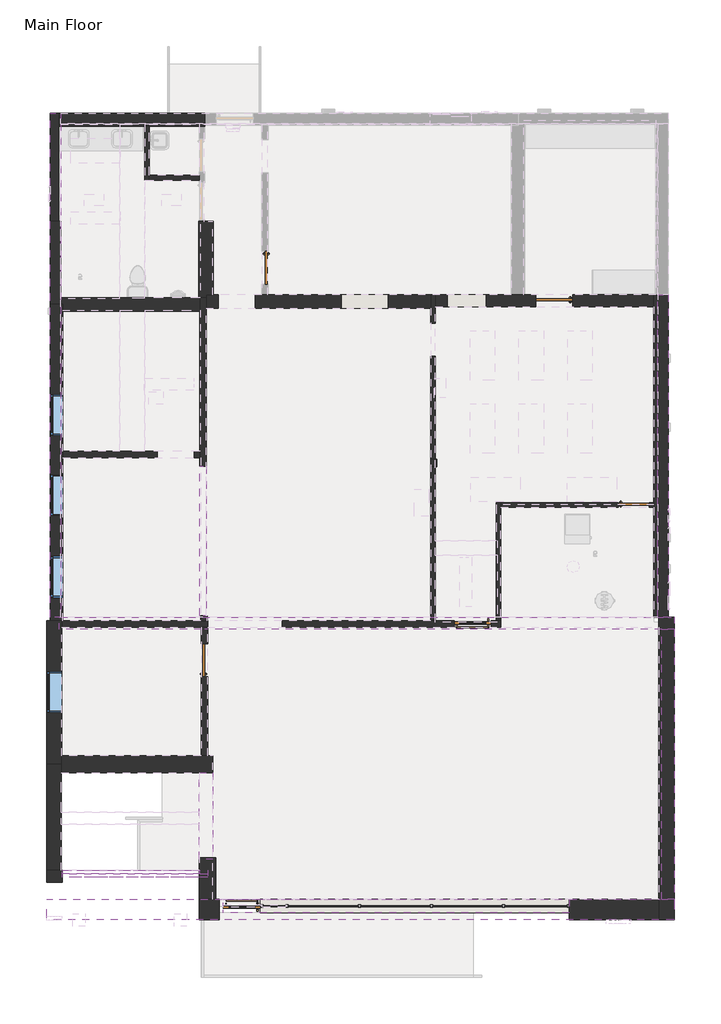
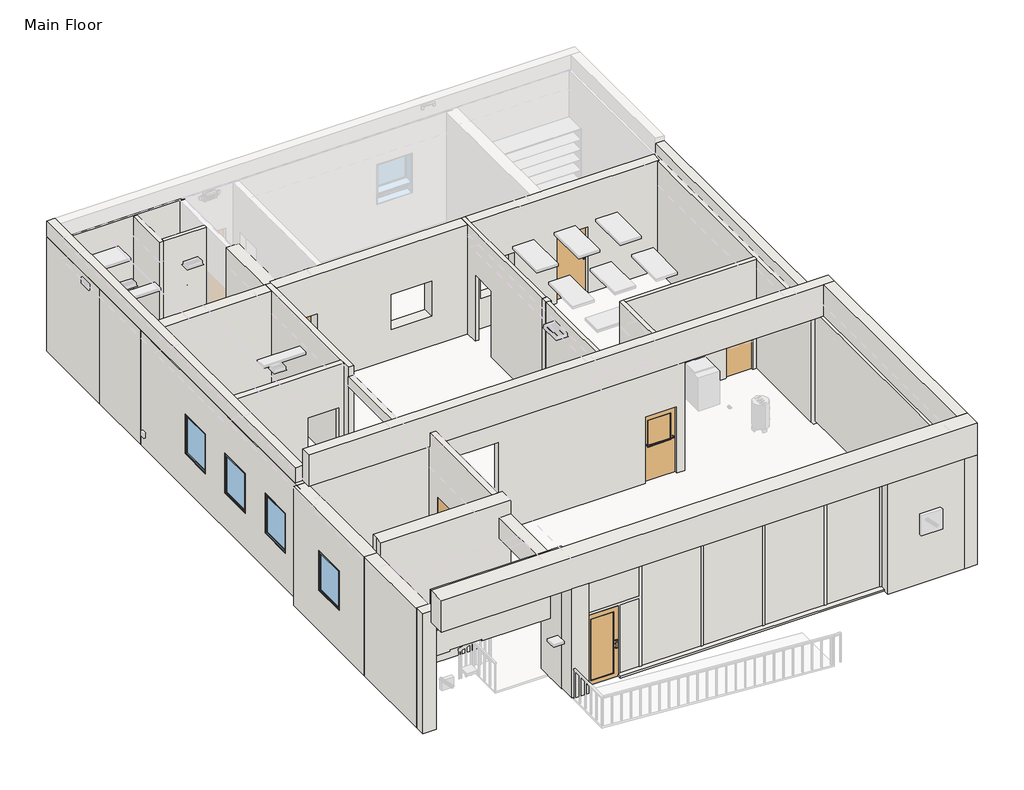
# One storey, part 1 of 4: 44 walls, 12 doors, 4 windows.
"""IFC4 building model written with IfcOpenShell, lengths in millimetres."""

from ifc_helpers import new_model, si_unit, frame, origin, origin_with_axes, place, context, project, spatial, polyline, outline, extrude, faceted_brep, transform, mapped, element, save
from components import door_a150a632, door_277e8865, door_f4e0ca5e, door_8cb6f799, door_086945a9, door_2_6_e0459014, door_2_8_83d02ac8, door_4acad3c3, door_4347636e, door_b55f2143, default_1_879c5c3a, default_1_cb71ed48

model = new_model("IFC4")

# Units and contexts
model_context = context("Model", 3, world=origin())
ifc_project = project(units=[si_unit("LENGTHUNIT", "METRE", prefix="MILLI")], contexts=[model_context])

# Site, building, storey
site = spatial("IfcSite", under=ifc_project)
building = spatial("IfcBuilding", under=site)
storey = spatial("IfcBuildingStorey", under=building, Name="Main Floor", Elevation=0.0)

# Doors
placement = place(None, origin())
door_shape = door_a150a632(model_context)
element("IfcDoor", 1, ObjectType="Planitar - Swap_Flush Panel : Planitar - Swap_Flush Panel", at=placement, inside=storey, context=model_context, shape_type="MappedRepresentation", body=[
    mapped(door_shape, transform((14998.7, 1934.9357, 0.0), x_axis=(1.0, 0.0, 0.0), y_axis=(0.0, 1.0, 0.0), z_axis=(0.0, 0.0, 1.0))),
])
door_2_shape = door_277e8865(model_context)
element("IfcDoor", 2, ObjectType="Planitar - Swap_Full Glass_Panel : Planitar - Swap_Full Glass_Panel", at=placement, inside=storey, context=model_context, shape_type="MappedRepresentation", body=[
    mapped(door_2_shape, transform((5333.6346089, -8007.35, 0.0), x_axis=(-1.0, 0.0, 0.0), y_axis=(0.0, -1.0, 0.0), z_axis=(0.0, 0.0, 1.0))),
])
door_3_shape = door_f4e0ca5e(model_context)
element("IfcDoor", 3, ObjectType="Planitar - Swap_Flush Panel : Planitar - Swap_Flush Panel", at=placement, inside=storey, context=model_context, shape_type="MappedRepresentation", body=[
    mapped(door_3_shape, transform((5930.9, 7766.05, 0.0), x_axis=(0.0, -1.0, 0.0), y_axis=(1.0, 0.0, 0.0), z_axis=(0.0, 0.0, 1.0))),
])
element("IfcDoor", 4, ObjectType="Planitar - Swap_Flush Panel : Planitar - Swap_Flush Panel", at=placement, inside=storey, context=model_context, shape_type="MappedRepresentation", body=[
    mapped(door_3_shape, transform((4387.85, -1913.128, 0.0), x_axis=(0.0, 1.0, 0.0), y_axis=(-1.0, 0.0, 0.0), z_axis=(0.0, 0.0, 1.0))),
])
door_4_shape = door_8cb6f799(model_context)
element("IfcDoor", 5, ObjectType="Planitar - Swap_Flush Panel : Planitar - Swap_Flush Panel", at=placement, inside=storey, context=model_context, shape_type="MappedRepresentation", body=[
    mapped(door_4_shape, transform((13036.55, 6972.3, 0.0), x_axis=(-1.0, 0.0, 0.0), y_axis=(0.0, -1.0, 0.0), z_axis=(0.0, 0.0, 1.0))),
])
door_5_shape = door_086945a9(model_context)
element("IfcDoor", 6, ObjectType="Planitar - Swap_Half Glass_Panel : Planitar - Swap_Half Glass_Panel", at=placement, inside=storey, context=model_context, shape_type="MappedRepresentation", body=[
    mapped(door_5_shape, transform((11025.4143, -998.728, 0.0), x_axis=(-1.0, 0.0, 0.0), y_axis=(0.0, -1.0, 0.0), z_axis=(0.0, 0.0, 1.0))),
])
door_2_6_shape = door_2_6_e0459014(model_context)
element("IfcDoor", 7, ObjectType="Planitar - Single Door : 2'6", at=placement, inside=storey, context=model_context, shape_type="MappedRepresentation", body=[
    mapped(door_2_6_shape, transform((14998.7, 1909.5357, 0.0), x_axis=(1.0, 0.0, 0.0), y_axis=(0.0, 1.0, 0.0), z_axis=(0.0, 0.0, 1.0))),
])
door_2_8_shape = door_2_8_83d02ac8(model_context)
element("IfcDoor", 8, ObjectType="Planitar - Single Door : 2'8", at=placement, inside=storey, context=model_context, shape_type="MappedRepresentation", body=[
    mapped(door_2_8_shape, transform((5905.5, 7766.05, 0.0), x_axis=(0.0, -1.0, 0.0), y_axis=(1.0, 0.0, 0.0), z_axis=(0.0, 0.0, 1.0))),
])
element("IfcDoor", 9, ObjectType="Planitar - Single Door : 2'8", at=placement, inside=storey, context=model_context, shape_type="MappedRepresentation", body=[
    mapped(door_2_8_shape, transform((4413.25, -1913.128, 0.0), x_axis=(0.0, 1.0, 0.0), y_axis=(-1.0, 0.0, 0.0), z_axis=(0.0, 0.0, 1.0))),
])
door_6_shape = door_4acad3c3(model_context)
element("IfcDoor", 10, ObjectType="Planitar - Single Door : 3'-0 x 6'-8\"", at=placement, inside=storey, context=model_context, shape_type="MappedRepresentation", body=[
    mapped(door_6_shape, transform((5333.6346089, -7981.95, 0.0), x_axis=(-1.0, 0.0, 0.0), y_axis=(0.0, -1.0, 0.0), z_axis=(0.0, 0.0, 1.0))),
])
door_7_shape = door_4347636e(model_context)
element("IfcDoor", 11, ObjectType="Planitar - Single Door : 3'-0 x 6'-8\"", at=placement, inside=storey, context=model_context, shape_type="MappedRepresentation", body=[
    mapped(door_7_shape, transform((13036.55, 6946.9, 0.0), x_axis=(-1.0, 0.0, 0.0), y_axis=(0.0, -1.0, 0.0), z_axis=(0.0, 0.0, 1.0))),
])
door_8_shape = door_b55f2143(model_context)
element("IfcDoor", 12, ObjectType="Planitar - Single Door : 3'-0 x 6'-8\"", at=placement, inside=storey, context=model_context, shape_type="MappedRepresentation", body=[
    mapped(door_8_shape, transform((11025.4143, -1024.128, 0.0), x_axis=(-1.0, 0.0, 0.0), y_axis=(0.0, -1.0, 0.0), z_axis=(0.0, 0.0, 1.0))),
])

# Walls
element("IfcWall", 13, ObjectType="Planitar - Generic 1' - 2\"", at=placement, inside=storey, context=model_context, shape_type="Brep", body=[
    faceted_brep([(15494.0, 7091.172, -254.0), (15494.0, -852.678, -254.0), (15494.0, -852.678, 3327.4), (15494.0, 7091.172, 3327.4), (15849.6, 7091.172, -254.0), (15849.6, 7091.172, 152.4), (15849.6, 7091.172, 3327.4), (15849.6, -852.678, 3327.4), (15849.6, -852.678, -254.0), (15614.65, -852.678, 3327.4)], [[[0, 1, 2, 3]], [[4, 5, 6, 7, 8]], [[1, 0, 4, 8]], [[3, 2, 9, 7, 6]], [[0, 3, 6, 5, 4]], [[1, 8, 7, 9, 2]]]),
])
element("IfcWall", 14, ObjectType="Planitar - Generic 1' - 3\"", at=placement, inside=storey, context=model_context, shape_type="Brep", body=[
    faceted_brep([(15614.65, -852.678, 0.0), (15614.65, -7810.5, 0.0), (15614.65, -8318.5, 0.0), (15614.65, -8318.5, 3352.8), (15614.65, -7810.5, 3352.8), (15614.65, -852.678, 3352.8), (15614.65, -852.678, 3327.4), (15995.65, -852.678, 0.0), (15995.65, -852.678, 3352.8), (15995.65, -1157.478, 3352.8), (15995.65, -7810.5, 3352.8), (15995.65, -8318.5, 3352.8), (15995.65, -8318.5, 0.0)], [[[0, 1, 2, 3, 4, 5, 6]], [[7, 8, 9, 10, 11, 12]], [[2, 1, 0, 7, 12]], [[5, 4, 3, 11, 10, 9, 8]], [[0, 6, 5, 8, 7]], [[3, 2, 12, 11]]]),
])
element("IfcWall", 15, ObjectType="Planitar - Generic 1' - 8\"", at=placement, inside=storey, context=model_context, shape_type="Brep", body=[
    faceted_brep([(4775.2, -7810.5, 3352.8), (4775.2, -7810.5, 0.0), (4692.65, -7810.5, 0.0), (4337.05, -7810.5, 0.0), (4337.05, -7810.5, 31.75), (4286.25, -7810.5, 31.75), (4286.25, -7810.5, 3352.8), (4775.2, -8318.5, 0.0), (4775.2, -8318.5, 3352.8), (4286.25, -8318.5, 3352.8), (4286.25, -8318.5, 31.75), (4337.05, -8318.5, 31.75), (4337.05, -8318.5, 0.0), (4775.2, -8147.05, 3352.8), (4775.2, -7816.85, 3352.8)], [[[0, 1, 2, 3, 4, 5, 6]], [[7, 8, 9, 10, 11, 12]], [[3, 2, 1, 7, 12]], [[0, 6, 9, 8, 13, 14]], [[0, 14, 13, 8, 7, 1]], [[4, 3, 12, 11]], [[10, 5, 4, 11]], [[5, 10, 9, 6]]]),
])
element("IfcWall", 16, ObjectType="Planitar - Generic 1' - 4\"", at=placement, inside=storey, context=model_context, shape_type="Brep", body=[
    faceted_brep([(4692.65, -7810.5, 3784.6), (4692.65, -7810.5, 0.0), (4692.65, -6794.5, 0.0), (4692.65, -6794.5, 3327.4), (4692.65, -7100.57, 3327.4), (4692.65, -7100.57, 3784.6), (4286.25, -7810.5, 0.0), (4286.25, -7810.5, 31.75), (4286.25, -7810.5, 3352.8), (4286.25, -7810.5, 3784.6), (4286.25, -7265.67, 3784.6), (4286.25, -7100.57, 3784.6), (4286.25, -7100.57, 3352.8), (4286.25, -7100.57, 3327.4), (4286.25, -6794.5, 3327.4), (4286.25, -6794.5, 0.0), (4337.05, -7810.5, 0.0)], [[[0, 1, 2, 3, 4, 5]], [[6, 7, 8, 9, 10, 11, 12, 13, 14, 15]], [[0, 9, 8, 7, 6, 16, 1]], [[2, 1, 16, 6, 15]], [[3, 2, 15, 14]], [[4, 3, 14, 13]], [[0, 5, 11, 10, 9]], [[5, 4, 13, 12, 11]]]),
])
element("IfcWall", 17, ObjectType="Planitar - Generic 1' - 0\"", at=placement, inside=storey, context=model_context, shape_type="Brep", body=[
    faceted_brep([(901.7, -7094.22, 3352.8), (901.7, -7094.22, -304.8), (876.0952, -7094.22, -304.8), (520.4952, -7094.22, -304.8), (520.4952, -7094.22, 3327.4), (520.4952, -7094.22, 3352.8), (901.7, -7399.02, -304.8), (901.7, -7399.02, 3352.8), (520.4952, -7399.02, 3352.8), (520.4952, -7399.02, -304.8), (901.7, -7265.67, 3352.8), (901.7, -7100.57, 3352.8)], [[[0, 1, 2, 3, 4, 5]], [[6, 7, 8, 9]], [[3, 2, 1, 6, 9]], [[0, 5, 8, 7, 10, 11]], [[0, 11, 10, 7, 6, 1]], [[3, 9, 8, 5, 4]]]),
])
element("IfcWall", 18, ObjectType="Planitar - Generic 1' - 2\"", at=placement, inside=storey, context=model_context, shape_type="Brep", body=[
    faceted_brep([(876.0952, -7094.22, 3327.4), (876.0952, -7094.22, -304.8), (876.0952, -4686.3, -304.8), (876.0952, -4476.75, -304.8), (876.0952, -4476.75, 3327.4), (520.4952, -7094.22, -304.8), (520.4952, -7094.22, 3327.4), (520.4952, -4476.75, 3327.4), (520.4952, -4476.75, -304.8)], [[[0, 1, 2, 3, 4]], [[5, 6, 7, 8]], [[3, 2, 1, 5, 8]], [[0, 4, 7, 6]], [[3, 8, 7, 4]], [[0, 6, 5, 1]]]),
])
element("IfcWall", 19, ObjectType="Planitar - Generic 1' - 2 1/2\"", at=placement, inside=storey, context=model_context, shape_type="Brep", body=[
    faceted_brep([(888.7952, -4476.75, 3327.4), (888.7952, -4476.75, -304.8), (888.7952, -4267.2, -304.8), (888.7952, -941.578, -304.8), (888.7952, -941.578, 3327.4), (888.7952, -3207.639, 914.4), (888.7952, -3207.639, 2133.6), (888.7952, -2191.639, 2133.6), (888.7952, -2191.639, 914.4), (520.4952, -4476.75, -304.8), (520.4952, -4476.75, 3327.4), (520.4952, -941.578, 3327.4), (520.4952, -941.578, -304.8), (520.4952, -3207.639, 914.4), (520.4952, -2191.639, 914.4), (520.4952, -2191.639, 2133.6), (520.4952, -3207.639, 2133.6), (876.0952, -4476.75, -304.8), (876.0952, -4476.75, 3327.4)], [[[0, 1, 2, 3, 4], [5, 6, 7, 8]], [[9, 10, 11, 12], [13, 14, 15, 16]], [[6, 5, 13, 16]], [[7, 6, 16, 15]], [[8, 7, 15, 14]], [[5, 8, 14, 13]], [[3, 2, 1, 17, 9, 12]], [[4, 3, 12, 11]], [[0, 4, 11, 10, 18]], [[0, 18, 10, 9, 17, 1]]]),
])
element("IfcWall", 20, ObjectType="Planitar - Generic 1' - 0\"", at=placement, inside=storey, context=model_context, shape_type="Brep", body=[
    faceted_brep([(914.1952, -1024.128, -152.4), (914.1952, 6858.0, -152.4), (914.1952, 6858.0, 0.0), (914.1952, 6858.0, 3327.4), (914.1952, -941.578, 3327.4), (914.1952, -941.578, 0.0), (914.1952, -1024.128, 0.0), (914.1952, 3625.85, 914.4), (914.1952, 3625.85, 2133.6), (914.1952, 4641.85, 2133.6), (914.1952, 4641.85, 914.4), (914.1952, 1644.65, 914.4), (914.1952, 1644.65, 2133.6), (914.1952, 2660.65, 2133.6), (914.1952, 2660.65, 914.4), (914.1952, -370.078, 914.4), (914.1952, -370.078, 2133.6), (914.1952, 645.922, 2133.6), (914.1952, 645.922, 914.4), (609.3952, -1024.128, -152.4), (609.3952, -1024.128, 0.0), (609.3952, -941.578, 0.0), (609.3952, -941.578, 3327.4), (609.3952, 6858.0, 3327.4), (609.3952, 6858.0, -152.4), (609.3952, 3625.85, 914.4), (609.3952, 4641.85, 914.4), (609.3952, 4641.85, 2133.6), (609.3952, 3625.85, 2133.6), (609.3952, 1644.65, 914.4), (609.3952, 2660.65, 914.4), (609.3952, 2660.65, 2133.6), (609.3952, 1644.65, 2133.6), (609.3952, -370.078, 914.4), (609.3952, 645.922, 914.4), (609.3952, 645.922, 2133.6), (609.3952, -370.078, 2133.6), (863.3952, 6858.0, -152.4), (863.3952, 6858.0, 3327.4), (888.7952, -1024.128, 0.0), (634.7952, -1024.128, 0.0)], [[[0, 1, 2, 3, 4, 5, 6], [7, 8, 9, 10], [11, 12, 13, 14], [15, 16, 17, 18]], [[19, 20, 21, 22, 23, 24], [25, 26, 27, 28], [29, 30, 31, 32], [33, 34, 35, 36]], [[8, 7, 25, 28]], [[9, 8, 28, 27]], [[10, 9, 27, 26]], [[7, 10, 26, 25]], [[12, 11, 29, 32]], [[13, 12, 32, 31]], [[14, 13, 31, 30]], [[11, 14, 30, 29]], [[16, 15, 33, 36]], [[17, 16, 36, 35]], [[18, 17, 35, 34]], [[15, 18, 34, 33]], [[1, 0, 19, 24, 37]], [[4, 3, 38, 23, 22]], [[1, 37, 24, 23, 38, 3, 2]], [[0, 6, 39, 40, 20, 19]], [[5, 21, 20, 40, 39, 6]], [[4, 22, 21, 5]]]),
])
element("IfcWall", 21, ObjectType="Planitar - Generic 10\"", at=placement, inside=storey, context=model_context, shape_type="Brep", body=[
    faceted_brep([(863.3952, 6858.0, 3327.4), (863.3952, 6858.0, 0.0), (863.3952, 6858.0, -152.4), (863.3952, 8915.4, -152.4), (863.3952, 8915.4, 3327.4), (609.3952, 6858.0, -152.4), (609.3952, 6858.0, 3327.4), (609.3952, 8915.4, 3327.4), (609.3952, 8915.4, -152.4), (812.5952, 8915.4, -152.4), (812.5952, 8915.4, 3327.4)], [[[0, 1, 2, 3, 4]], [[5, 6, 7, 8]], [[3, 2, 5, 8, 9]], [[4, 3, 9, 8, 7, 10]], [[0, 4, 10, 7, 6]], [[0, 6, 5, 2, 1]]]),
])
element("IfcWall", 22, ObjectType="Planitar - Generic 1' - 1/2\"", at=placement, inside=storey, context=model_context, shape_type="Brep", body=[
    faceted_brep([(812.5952, 11252.2, -152.4), (4349.75, 11252.2, -152.4), (4349.75, 11252.2, 0.0), (4419.6, 11252.2, 0.0), (4419.6, 11252.2, 3340.1), (4349.75, 11252.2, 3340.1), (4349.75, 11252.2, 3352.8), (812.5952, 11252.2, 3352.8), (812.5952, 11569.7, -152.4), (812.5952, 11569.7, 3327.4), (812.5952, 11569.7, 3352.8), (4349.75, 11569.7, 3352.8), (4349.75, 11569.7, 3340.1), (4419.6, 11569.7, 3340.1), (4419.6, 11569.7, 0.0), (4349.75, 11569.7, 0.0), (4349.75, 11569.7, -152.4), (4349.75, 11277.6, 3352.8), (4349.75, 11277.6, 0.0), (4419.6, 11277.6, 0.0), (4349.75, 11277.6, 3340.1), (4419.6, 11277.6, 3340.1)], [[[0, 1, 2, 3, 4, 5, 6, 7]], [[8, 9, 10, 11, 12, 13, 14, 15, 16]], [[1, 0, 8, 16]], [[7, 6, 17, 11, 10]], [[0, 7, 10, 9, 8]], [[2, 1, 16, 15, 18]], [[14, 19, 3, 2, 18, 15]], [[6, 5, 20, 12, 11, 17]], [[12, 20, 5, 4, 21, 13]], [[4, 3, 19, 14, 13, 21]]]),
])
element("IfcWall", 23, ObjectType="Planitar - Generic 6 1/2\"", at=placement, inside=storey, context=model_context, shape_type="Brep", body=[
    faceted_brep([(11717.5643, -1106.678, 3327.4), (609.3952, -1106.678, 3327.4), (609.3952, -1106.678, 0.0), (634.7952, -1106.678, 0.0), (888.7952, -1106.678, 0.0), (4330.7, -1106.678, 0.0), (4495.8, -1106.678, 0.0), (4495.8, -1106.678, 2743.2), (6324.6, -1106.678, 2743.2), (6324.6, -1106.678, 0.0), (10568.2143, -1106.678, 0.0), (10568.2143, -1106.678, 2032.0), (11482.6143, -1106.678, 2032.0), (11482.6143, -1106.678, 0.0), (11717.5643, -1106.678, 0.0), (609.3952, -941.578, 3327.4), (914.1952, -941.578, 3327.4), (4318.0, -941.578, 3327.4), (4483.1, -941.578, 3327.4), (11717.5643, -941.578, 3327.4), (11717.5643, -941.578, 0.0), (11603.2643, -941.578, 0.0), (11482.6143, -941.578, 0.0), (11482.6143, -941.578, 2032.0), (10568.2143, -941.578, 2032.0), (10568.2143, -941.578, 0.0), (10102.85, -941.578, 0.0), (9988.55, -941.578, 0.0), (6324.6, -941.578, 0.0), (6324.6, -941.578, 2743.2), (4495.8, -941.578, 2743.2), (4495.8, -941.578, 0.0), (4483.1, -941.578, 0.0), (4318.0, -941.578, 0.0), (914.1952, -941.578, 0.0), (609.3952, -941.578, 0.0), (609.3952, -1024.128, 0.0)], [[[0, 1, 2, 3, 4, 5, 6, 7, 8, 9, 10, 11, 12, 13, 14]], [[15, 16, 17, 18, 19, 20, 21, 22, 23, 24, 25, 26, 27, 28, 29, 30, 31, 32, 33, 34, 35]], [[31, 6, 5, 4, 3, 2, 36, 35, 34, 33, 32]], [[9, 28, 27, 26, 25, 10]], [[20, 14, 13, 22, 21]], [[1, 0, 19, 18, 17, 16, 15]], [[31, 30, 7, 6]], [[29, 28, 9, 8]], [[30, 29, 8, 7]], [[24, 11, 10, 25]], [[11, 24, 23, 12]], [[12, 23, 22, 13]], [[0, 14, 20, 19]], [[35, 36, 2, 1, 15]]]),
])
element("IfcWall", 24, ObjectType="Planitar - Generic 6 1/2\"", at=placement, inside=storey, context=model_context, shape_type="Brep", body=[
    faceted_brep([(4330.7, -4267.2, 3759.2), (4330.7, -1157.478, 3759.2), (4330.7, -1157.478, 3352.8), (4330.7, -1106.678, 3352.8), (4330.7, -1106.678, 0.0), (4330.7, -1506.728, 0.0), (4330.7, -1506.728, 2032.0), (4330.7, -2319.528, 2032.0), (4330.7, -2319.528, 0.0), (4330.7, -4267.2, 0.0), (4495.8, -1157.478, 3759.2), (4495.8, -4267.2, 3759.2), (4495.8, -4267.2, 0.0), (4495.8, -2319.528, 0.0), (4495.8, -2319.528, 2032.0), (4495.8, -1506.728, 2032.0), (4495.8, -1506.728, 0.0), (4495.8, -1106.678, 0.0), (4495.8, -1106.678, 2743.2), (4495.8, -1106.678, 3352.8), (4495.8, -1157.478, 3352.8)], [[[0, 1, 2, 3, 4, 5, 6, 7, 8, 9]], [[10, 11, 12, 13, 14, 15, 16, 17, 18, 19, 20]], [[12, 9, 8, 13]], [[4, 17, 16, 5]], [[1, 0, 11, 10]], [[15, 6, 5, 16]], [[6, 15, 14, 7]], [[7, 14, 13, 8]], [[20, 19, 3, 2]], [[17, 4, 3, 19, 18]], [[1, 10, 20, 2]], [[9, 12, 11, 0]]]),
])
element("IfcWall", 25, ObjectType="Planitar - Generic 6 1/2\"", at=placement, inside=storey, context=model_context, shape_type="SweptSolid", body=[
    extrude(outline(polyline([(2032.0, 4159.25), (0.0, 4159.25), (0.0, 4292.6), (3340.1, 4292.6), (3340.1, 914.1952), (0.0, 914.1952), (0.0, 3244.85), (2032.0, 3244.85), (2032.0, 4159.25)])), frame((0.0, 3073.4, 0.0), z_axis=(0.0, 1.0, 0.0), x_axis=(0.0, 0.0, 1.0)), (0.0, 0.0, 1.0), 165.1),
])
element("IfcWall", 26, ObjectType="Planitar - Generic 6 1/2\"", at=placement, inside=storey, context=model_context, shape_type="Brep", body=[
    faceted_brep([(4457.7, 2870.2, 0.0), (4457.7, 6762.75, 0.0), (4457.7, 7023.1, 0.0), (4457.7, 7023.1, 3340.1), (4457.7, 6762.75, 3340.1), (4457.7, 2870.2, 3340.1), (4457.7, 2870.2, 3048.0), (4457.7, 2870.2, 2743.2), (4292.6, 2870.2, 0.0), (4292.6, 2870.2, 2743.2), (4292.6, 2870.2, 3048.0), (4292.6, 2870.2, 3340.1), (4292.6, 3073.4, 3340.1), (4292.6, 3238.5, 3340.1), (4292.6, 6692.9, 3340.1), (4292.6, 7023.1, 3340.1), (4292.6, 7023.1, 0.0), (4292.6, 6692.9, 0.0), (4292.6, 3238.5, 0.0), (4292.6, 3073.4, 0.0)], [[[0, 1, 2, 3, 4, 5, 6, 7]], [[8, 9, 10, 11, 12, 13, 14, 15, 16, 17, 18, 19]], [[2, 1, 0, 8, 19, 18, 17, 16]], [[5, 4, 3, 15, 14, 13, 12, 11]], [[0, 7, 6, 5, 11, 10, 9, 8]], [[3, 2, 16, 15]]]),
])
element("IfcWall", 27, ObjectType="Planitar - Generic 4 1/2\"", at=placement, inside=storey, context=model_context, shape_type="SweptSolid", body=[
    extrude(outline(polyline([(10102.85, 2857.5), (10102.85, -941.578), (9988.55, -941.578), (9988.55, 2857.5), (10102.85, 2857.5)])), origin_with_axes(), (0.0, 0.0, 1.0), 3340.1),
])
element("IfcWall", 28, ObjectType="Planitar - Generic 4 1/2\"", at=placement, inside=storey, context=model_context, shape_type="Brep", body=[
    faceted_brep([(11717.5643, -941.578, 0.0), (11717.5643, 1852.3857, 0.0), (11717.5643, 1966.6857, 0.0), (11717.5643, 1966.6857, 3340.1), (11717.5643, 1852.3857, 3340.1), (11717.5643, -941.578, 3340.1), (11717.5643, -941.578, 3327.4), (11603.2643, -941.578, 0.0), (11603.2643, -941.578, 3340.1), (11603.2643, 1966.6857, 3340.1), (11603.2643, 1966.6857, 0.0)], [[[0, 1, 2, 3, 4, 5, 6]], [[7, 8, 9, 10]], [[2, 1, 0, 7, 10]], [[5, 4, 3, 9, 8]], [[0, 6, 5, 8, 7]], [[3, 2, 10, 9]]]),
])
element("IfcWall", 29, ObjectType="Planitar - Generic 4 1/2\"", at=placement, inside=storey, context=model_context, shape_type="SweptSolid", body=[
    extrude(outline(polyline([(3340.1, 15494.0), (3340.1, 11717.5643), (0.0, 11717.5643), (0.0, 14617.7), (2032.0, 14617.7), (2032.0, 15379.7), (0.0, 15379.7), (0.0, 15494.0), (3340.1, 15494.0)])), frame((0.0, 1852.3857, 0.0), z_axis=(0.0, 1.0, 0.0), x_axis=(0.0, 0.0, 1.0)), (0.0, 0.0, 1.0), 114.3),
])
element("IfcWall", 30, ObjectType="Planitar - Generic 4 1/2\"", at=placement, inside=storey, context=model_context, shape_type="Brep", body=[
    faceted_brep([(2933.7, 11252.2, 0.0), (2933.7, 9928.225, 0.0), (2933.7, 9928.225, 3340.1), (2933.7, 11252.2, 3340.1), (3048.0, 11252.2, 0.0), (3048.0, 11252.2, 3340.1), (3048.0, 10042.525, 3340.1), (3048.0, 9928.225, 3340.1), (3048.0, 9928.225, 0.0), (3048.0, 10042.525, 0.0)], [[[0, 1, 2, 3]], [[4, 5, 6, 7, 8, 9]], [[1, 0, 4, 9, 8]], [[3, 2, 7, 6, 5]], [[0, 3, 5, 4]], [[2, 1, 8, 7]]]),
])
element("IfcWall", 31, ObjectType="Planitar - Generic 4 1/2\"", at=placement, inside=storey, context=model_context, shape_type="SweptSolid", body=[
    extrude(outline(polyline([(4279.9, 9928.225), (3048.0, 9928.225), (3048.0, 10042.525), (4279.9, 10042.525), (4279.9, 9928.225)])), origin_with_axes(), (0.0, 0.0, 1.0), 3340.1),
])
element("IfcWall", 32, ObjectType="Planitar - Generic 1' - 2\"", at=placement, inside=storey, context=model_context, shape_type="Brep", body=[
    faceted_brep([(4267.2, 8915.4, 0.0), (4267.2, 7023.1, 0.0), (4267.2, 7023.1, 3340.1), (4267.2, 8915.4, 3340.1), (4622.8, 8915.4, 0.0), (4622.8, 8915.4, 3340.1), (4622.8, 7092.95, 3340.1), (4622.8, 7092.95, 0.0), (4279.9, 8915.4, 0.0), (4419.6, 8915.4, 0.0), (4457.7, 7092.95, 0.0), (4457.7, 7023.1, 0.0), (4292.6, 7023.1, 0.0), (4292.6, 7023.1, 3340.1), (4457.7, 7023.1, 3340.1), (4457.7, 7092.95, 3340.1), (4419.6, 8915.4, 3340.1), (4279.9, 8915.4, 3340.1)], [[[0, 1, 2, 3]], [[4, 5, 6, 7]], [[1, 0, 8, 9, 4, 7, 10, 11, 12]], [[3, 2, 13, 14, 15, 6, 5, 16, 17]], [[0, 3, 17, 16, 5, 4, 9, 8]], [[2, 1, 12, 11, 14, 13]], [[11, 10, 15, 14]], [[10, 7, 6, 15]]]),
])
element("IfcWall", 33, ObjectType="Planitar - Generic 1' - 1\"", at=placement, inside=storey, context=model_context, shape_type="Brep", body=[
    faceted_brep([(914.1952, 6692.9, 0.0), (4292.6, 6692.9, 0.0), (4292.6, 6692.9, 3340.1), (914.1952, 6692.9, 3340.1), (863.3952, 7023.1, 0.0), (863.3952, 7023.1, 3340.1), (4267.2, 7023.1, 3340.1), (4292.6, 7023.1, 3340.1), (4292.6, 7023.1, 0.0), (4267.2, 7023.1, 0.0), (914.1952, 6858.0, 0.0), (863.3952, 6858.0, 0.0), (863.3952, 6858.0, 3340.1), (914.1952, 6858.0, 3340.1), (914.1952, 6858.0, 3327.4), (863.3952, 6858.0, 3327.4)], [[[0, 1, 2, 3]], [[4, 5, 6, 7, 8, 9]], [[1, 0, 10, 11, 4, 9, 8]], [[3, 2, 7, 6, 5, 12, 13]], [[0, 3, 13, 14, 10]], [[13, 12, 15, 11, 10, 14]], [[12, 5, 4, 11, 15]], [[2, 1, 8, 7]]]),
])
element("IfcWall", 34, ObjectType="Planitar - Generic 1' - 1\"", at=placement, inside=storey, context=model_context, shape_type="Brep", body=[
    faceted_brep([(5664.2, 6762.75, 2133.6), (5664.2, 6762.75, 0.0), (9988.55, 6762.75, 0.0), (9988.55, 6762.75, 3340.1), (4457.7, 6762.75, 3340.1), (4457.7, 6762.75, 0.0), (4749.8, 6762.75, 0.0), (4749.8, 6762.75, 2133.6), (7778.75, 6762.75, 1981.2), (8947.15, 6762.75, 1981.2), (8947.15, 6762.75, 914.4), (7778.75, 6762.75, 914.4), (9988.55, 7092.95, 0.0), (5988.05, 7092.95, 0.0), (5822.95, 7092.95, 0.0), (5664.2, 7092.95, 0.0), (5664.2, 7092.95, 2133.6), (4749.8, 7092.95, 2133.6), (4749.8, 7092.95, 0.0), (4622.8, 7092.95, 0.0), (4457.7, 7092.95, 0.0), (4457.7, 7092.95, 3340.1), (4622.8, 7092.95, 3340.1), (5822.95, 7092.95, 3340.1), (5988.05, 7092.95, 3340.1), (9988.55, 7092.95, 3340.1), (7778.75, 7092.95, 1981.2), (7778.75, 7092.95, 914.4), (8947.15, 7092.95, 914.4), (8947.15, 7092.95, 1981.2), (4457.7, 7023.1, 0.0), (4457.7, 7023.1, 3340.1)], [[[0, 1, 2, 3, 4, 5, 6, 7], [8, 9, 10, 11]], [[12, 13, 14, 15, 16, 17, 18, 19, 20, 21, 22, 23, 24, 25], [26, 27, 28, 29]], [[6, 5, 30, 20, 19, 18]], [[2, 1, 15, 14, 13, 12]], [[4, 3, 25, 24, 23, 22, 21, 31]], [[3, 2, 12, 25]], [[27, 26, 8, 11]], [[28, 27, 11, 10]], [[29, 28, 10, 9]], [[26, 29, 9, 8]], [[18, 17, 7, 6]], [[16, 15, 1, 0]], [[17, 16, 0, 7]], [[5, 4, 31, 21, 20, 30]]]),
])
element("IfcWall", 35, ObjectType="Planitar - Generic 11 1/2\"", at=placement, inside=storey, context=model_context, shape_type="Brep", body=[
    faceted_brep([(15544.8, 6800.85, 0.0), (15544.8, 6800.85, 3340.1), (10102.85, 6800.85, 3340.1), (10102.85, 6800.85, 0.0), (12579.35, 6800.85, 0.0), (12579.35, 6800.85, 2032.0), (13493.75, 6800.85, 2032.0), (13493.75, 6800.85, 0.0), (10394.95, 6800.85, 1981.2), (11360.15, 6800.85, 1981.2), (11360.15, 6800.85, 914.4), (10394.95, 6800.85, 914.4), (15544.8, 7092.95, 3340.1), (15544.8, 7092.95, 0.0), (13493.75, 7092.95, 0.0), (13493.75, 7092.95, 2032.0), (12579.35, 7092.95, 2032.0), (12579.35, 7092.95, 0.0), (12312.65, 7092.95, 0.0), (11982.45, 7092.95, 0.0), (10102.85, 7092.95, 0.0), (10102.85, 7092.95, 3340.1), (11982.45, 7092.95, 3340.1), (12312.65, 7092.95, 3340.1), (10394.95, 7092.95, 1981.2), (10394.95, 7092.95, 914.4), (11360.15, 7092.95, 914.4), (11360.15, 7092.95, 1981.2)], [[[0, 1, 2, 3, 4, 5, 6, 7], [8, 9, 10, 11]], [[12, 13, 14, 15, 16, 17, 18, 19, 20, 21, 22, 23], [24, 25, 26, 27]], [[13, 0, 7, 14]], [[3, 20, 19, 18, 17, 4]], [[1, 0, 13, 12]], [[2, 1, 12, 23, 22, 21]], [[3, 2, 21, 20]], [[25, 24, 8, 11]], [[26, 25, 11, 10]], [[27, 26, 10, 9]], [[24, 27, 9, 8]], [[16, 5, 4, 17]], [[5, 16, 15, 6]], [[6, 15, 14, 7]]]),
])
element("IfcWall", 36, ObjectType="Planitar - Generic 1' - 4 1/2\"", at=placement, inside=storey, context=model_context, shape_type="Brep", body=[
    faceted_brep([(634.7952, -4686.3, -457.2), (4616.45, -4686.3, -457.2), (4616.45, -4686.3, 2692.4), (4616.45, -4686.3, 3327.4), (4616.45, -4686.3, 3759.2), (876.0952, -4686.3, 3759.2), (876.0952, -4686.3, -304.8), (634.7952, -4686.3, -304.8), (634.7952, -4267.2, -457.2), (634.7952, -4267.2, -406.4), (634.7952, -4267.2, -304.8), (888.7952, -4267.2, -304.8), (888.7952, -4267.2, 3759.2), (4330.7, -4267.2, 3759.2), (4495.8, -4267.2, 3759.2), (4616.45, -4267.2, 3759.2), (4616.45, -4267.2, -457.2), (888.7952, -4476.75, 3759.2), (876.0952, -4476.75, 3759.2), (876.0952, -4476.75, -304.8), (888.7952, -4476.75, -304.8), (888.7952, -4476.75, 3327.4), (876.0952, -4476.75, 3327.4)], [[[0, 1, 2, 3, 4, 5, 6, 7]], [[8, 9, 10, 11, 12, 13, 14, 15, 16]], [[1, 0, 8, 16]], [[5, 4, 15, 14, 13, 12, 17, 18]], [[6, 19, 20, 11, 10, 7]], [[0, 7, 10, 9, 8]], [[18, 17, 21, 20, 19, 22]], [[20, 21, 17, 12, 11]], [[5, 18, 22, 19, 6]], [[4, 3, 2, 1, 16, 15]]]),
])
element("IfcWall", 37, ObjectType="Planitar - Generic 6 1/2\"", at=placement, inside=storey, context=model_context, shape_type="SweptSolid", body=[
    extrude(outline(polyline([(4483.1, -825.5), (4483.1, -941.578), (4318.0, -941.578), (4318.0, -825.5), (4483.1, -825.5)])), origin_with_axes(), (0.0, 0.0, 1.0), 3327.4),
])
element("IfcWall", 38, ObjectType="Planitar - Generic 1' - 1\"", at=placement, inside=storey, context=model_context, shape_type="SweptSolid", body=[
    extrude(outline(polyline([(13411.2, -7816.85), (13411.2, -8147.05), (5790.8346089, -8147.05), (5790.8346089, -7816.85), (13411.2, -7816.85)])), origin_with_axes(), (0.0, 0.0, 1.0), 50.8),
])
element("IfcWall", 39, ObjectType="Planitar - Curtain wall (Curved)", at=placement, inside=storey, context=model_context, shape_type="SweptSolid", body=[
    extrude(outline(polyline([(6413.5, -7969.25), (6413.5, -7994.65), (5854.3346089, -7994.65), (5854.3346089, -7969.25), (6413.5, -7969.25)])), frame((0.0, 0.0, 50.8), z_axis=(0.0, 0.0, 1.0), x_axis=(1.0, 0.0, 0.0)), (0.0, 0.0, 1.0), 2082.8),
    extrude(outline(polyline([(6477.0, -7994.65), (6477.0, -7969.25), (8197.85, -7969.25), (8197.85, -7994.65), (6477.0, -7994.65)])), frame((0.0, 0.0, 50.8), z_axis=(0.0, 0.0, 1.0), x_axis=(1.0, 0.0, 0.0)), (0.0, 0.0, 1.0), 3251.2),
    extrude(outline(polyline([(8261.35, -7994.65), (8261.35, -7969.25), (9975.85, -7969.25), (9975.85, -7994.65), (8261.35, -7994.65)])), frame((0.0, 0.0, 50.8), z_axis=(0.0, 0.0, 1.0), x_axis=(1.0, 0.0, 0.0)), (0.0, 0.0, 1.0), 3251.2),
    extrude(outline(polyline([(10039.35, -7994.65), (10039.35, -7969.25), (11753.85, -7969.25), (11753.85, -7994.65), (10039.35, -7994.65)])), frame((0.0, 0.0, 50.8), z_axis=(0.0, 0.0, 1.0), x_axis=(1.0, 0.0, 0.0)), (0.0, 0.0, 1.0), 3251.2),
    extrude(outline(polyline([(11817.35, -7994.65), (11817.35, -7969.25), (13360.4, -7969.25), (13360.4, -7994.65), (11817.35, -7994.65)])), frame((0.0, 0.0, 50.8), z_axis=(0.0, 0.0, 1.0), x_axis=(1.0, 0.0, 0.0)), (0.0, 0.0, 1.0), 3251.2),
    extrude(outline(polyline([(4876.8, -7969.25), (6413.5, -7969.25), (6413.5, -7994.65), (4876.8, -7994.65), (4876.8, -7969.25)])), frame((0.0, 0.0, 2197.1), z_axis=(0.0, 0.0, 1.0), x_axis=(1.0, 0.0, 0.0)), (0.0, 0.0, 1.0), 1104.9),
])
element("IfcWall", 40, ObjectType="Planitar - Generic 1' - 1\"", at=placement, inside=storey, context=model_context, shape_type="Brep", body=[
    faceted_brep([(13411.2, -7816.85, 3302.0), (4876.8, -7816.85, 3302.0), (4876.8, -7816.85, 3352.8), (13411.2, -7816.85, 3352.8), (13411.2, -8147.05, 3302.0), (13411.2, -8147.05, 3352.8), (4876.8, -8147.05, 3352.8), (4876.8, -8147.05, 3302.0), (4876.8, -7994.65, 3302.0), (4876.8, -7969.25, 3302.0)], [[[0, 1, 2, 3]], [[4, 5, 6, 7]], [[1, 0, 4, 7, 8, 9]], [[2, 1, 9, 8, 7, 6]], [[3, 2, 6, 5]], [[0, 3, 5, 4]]]),
])
element("IfcWall", 41, ObjectType="Planitar - Generic 6 1/2\"", at=placement, inside=storey, context=model_context, shape_type="SweptSolid", body=[
    extrude(outline(polyline([(1828.8, 4489.45), (2590.8, 4489.45), (2590.8, 901.7), (1828.8, 901.7), (1828.8, 1377.95), (1879.6, 1377.95), (1879.6, 2292.35), (1828.8, 2292.35), (1828.8, 4489.45)])), frame((0.0, -7265.67, 0.0), z_axis=(0.0, 1.0, 0.0), x_axis=(0.0, 0.0, 1.0)), (0.0, 0.0, 1.0), 165.1),
])
element("IfcWall", 42, ObjectType="Planitar - Generic 6 1/2\"", at=placement, inside=storey, context=model_context, shape_type="Brep", body=[
    faceted_brep([(901.7, -7265.67, 2590.8), (4489.45, -7265.67, 2590.8), (4489.45, -7265.67, 2641.6), (901.7, -7265.67, 2641.6), (901.7, -7100.57, 2590.8), (901.7, -7100.57, 2641.6), (4489.45, -7100.57, 2641.6), (4489.45, -7100.57, 2590.8), (4489.45, -7170.42, 2641.6), (4489.45, -7195.82, 2641.6), (901.7, -7170.42, 2641.6), (901.7, -7195.82, 2641.6)], [[[0, 1, 2, 3]], [[4, 5, 6, 7]], [[1, 0, 4, 7]], [[2, 1, 7, 6, 8, 9]], [[3, 2, 9, 8, 6, 5, 10, 11]], [[0, 3, 11, 10, 5, 4]]]),
])
element("IfcWall", 43, ObjectType="Planitar - Curtain wall (Curved)", at=placement, inside=storey, context=model_context, shape_type="SweptSolid", body=[
    extrude(outline(polyline([(4489.45, -7195.82), (901.7, -7195.82), (901.7, -7170.42), (4489.45, -7170.42), (4489.45, -7195.82)])), frame((0.0, 0.0, 2641.6), z_axis=(0.0, 0.0, 1.0), x_axis=(1.0, 0.0, 0.0)), (0.0, 0.0, 1.0), 660.4),
])
element("IfcWall", 44, ObjectType="Planitar - Generic 1' - 8\"", at=placement, inside=storey, context=model_context, shape_type="Brep", body=[
    faceted_brep([(520.4952, -8318.5, 3352.8), (15614.65, -8318.5, 3352.8), (15995.65, -8318.5, 3352.8), (15995.65, -8318.5, 4318.0), (520.4952, -8318.5, 4318.0), (520.4952, -7810.5, 3352.8), (520.4952, -7810.5, 4318.0), (825.2952, -7810.5, 4318.0), (15690.85, -7810.5, 4318.0), (15995.65, -7810.5, 4318.0), (15995.65, -7810.5, 3352.8), (15690.85, -7810.5, 3352.8), (15614.65, -7810.5, 3352.8), (13411.2, -7810.5, 3352.8), (825.2952, -7810.5, 3352.8)], [[[0, 1, 2, 3, 4]], [[5, 6, 7, 8, 9, 10, 11, 12, 13, 14]], [[2, 1, 0, 5, 14, 13, 12, 11, 10]], [[4, 3, 9, 8, 7, 6]], [[0, 4, 6, 5]], [[3, 2, 10, 9]]]),
])
element("IfcWall", 45, ObjectType="Planitar - Generic 6 1/2\"", at=placement, inside=storey, context=model_context, shape_type="SweptSolid", body=[
    extrude(outline(polyline([(4286.25, -7265.67), (901.7, -7265.67), (901.7, -7100.57), (4286.25, -7100.57), (4286.25, -7265.67)])), frame((0.0, 0.0, 3352.8), z_axis=(0.0, 0.0, 1.0), x_axis=(1.0, 0.0, 0.0)), (0.0, 0.0, 1.0), 431.8),
])
element("IfcWall", 46, ObjectType="Planitar - Generic 6 1/2\"", at=placement, inside=storey, context=model_context, shape_type="SweptSolid", body=[
    extrude(outline(polyline([(4292.6, -825.5), (4292.6, 2870.2), (4457.7, 2870.2), (4457.7, -825.5), (4292.6, -825.5)])), frame((0.0, 0.0, 2743.2), z_axis=(0.0, 0.0, 1.0), x_axis=(1.0, 0.0, 0.0)), (0.0, 0.0, 1.0), 304.8),
])
element("IfcWall", 47, ObjectType="Planitar - Generic 1' - 0\"", at=placement, inside=storey, context=model_context, shape_type="Brep", body=[
    faceted_brep([(15995.65, -852.678, 4318.0), (15995.65, -852.678, 3352.8), (15849.6, -852.678, 3352.8), (15614.65, -852.678, 3352.8), (15595.6, -852.678, 3352.8), (863.3952, -852.678, 3352.8), (825.2952, -852.678, 3352.8), (825.2952, -852.678, 4318.0), (15995.65, -1157.478, 3352.8), (15995.65, -1157.478, 4318.0), (15690.85, -1157.478, 4318.0), (825.2952, -1157.478, 4318.0), (825.2952, -1157.478, 3352.8), (4330.7, -1157.478, 3352.8), (4495.8, -1157.478, 3352.8), (15690.85, -1157.478, 3352.8)], [[[0, 1, 2, 3, 4, 5, 6, 7]], [[8, 9, 10, 11, 12, 13, 14, 15]], [[6, 5, 4, 3, 2, 1, 8, 15, 14, 13, 12]], [[0, 7, 11, 10, 9]], [[0, 9, 8, 1]], [[7, 6, 12, 11]]]),
])
element("IfcWall", 48, ObjectType="Planitar - Generic 1' - 0\"", at=placement, inside=storey, context=model_context, shape_type="SweptSolid", body=[
    extrude(outline(polyline([(15690.85, -7810.5), (15690.85, -1157.478), (15995.65, -1157.478), (15995.65, -7810.5), (15690.85, -7810.5)])), frame((0.0, 0.0, 3352.8), z_axis=(0.0, 0.0, 1.0), x_axis=(1.0, 0.0, 0.0)), (0.0, 0.0, 1.0), 965.2),
])
element("IfcWall", 49, ObjectType="Planitar - Generic 1' - 8\"", at=placement, inside=storey, context=model_context, shape_type="Brep", body=[
    faceted_brep([(13411.2, -8318.5, 3352.8), (13411.2, -8318.5, 0.0), (15614.65, -8318.5, 0.0), (15614.65, -8318.5, 3352.8), (13411.2, -7810.5, 0.0), (13411.2, -7810.5, 3352.8), (15614.65, -7810.5, 3352.8), (15614.65, -7810.5, 0.0), (13411.2, -8147.05, 0.0), (13411.2, -7816.85, 0.0), (13411.2, -7816.85, 3352.8), (13411.2, -8147.05, 3352.8)], [[[0, 1, 2, 3]], [[4, 5, 6, 7]], [[2, 1, 8, 9, 4, 7]], [[0, 3, 6, 5, 10, 11]], [[0, 11, 10, 5, 4, 9, 8, 1]], [[3, 2, 7, 6]]]),
])
element("IfcWall", 50, ObjectType="Planitar - Generic 10\"", at=placement, inside=storey, context=model_context, shape_type="Brep", body=[
    faceted_brep([(863.3952, -852.678, 3352.8), (863.3952, 11315.7, 3352.8), (863.3952, 11569.7, 3352.8), (863.3952, 11569.7, 3810.0), (863.3952, 11315.7, 3810.0), (863.3952, -852.678, 3810.0), (609.3952, -852.678, 3352.8), (609.3952, -852.678, 3810.0), (609.3952, 11569.7, 3810.0), (609.3952, 11569.7, 3352.8), (825.2952, -852.678, 3352.8)], [[[0, 1, 2, 3, 4, 5]], [[6, 7, 8, 9]], [[2, 1, 0, 10, 6, 9]], [[5, 4, 3, 8, 7]], [[0, 5, 7, 6, 10]], [[3, 2, 9, 8]]]),
])
element("IfcWall", 51, ObjectType="Planitar - Generic 10\"", at=placement, inside=storey, context=model_context, shape_type="SweptSolid", body=[
    extrude(outline(polyline([(15595.6, -852.678), (15595.6, 7092.95), (15849.6, 7092.95), (15849.6, -852.678), (15595.6, -852.678)])), frame((0.0, 0.0, 3352.8), z_axis=(0.0, 0.0, 1.0), x_axis=(1.0, 0.0, 0.0)), (0.0, 0.0, 1.0), 304.8),
])
element("IfcWall", 52, ObjectType="Planitar - Generic 4 1/2\"", at=placement, inside=storey, context=model_context, shape_type="Brep", body=[
    faceted_brep([(10102.85, 3035.3, 0.0), (10102.85, 5581.65, 0.0), (10102.85, 5581.65, 2032.0), (10102.85, 6394.45, 2032.0), (10102.85, 6394.45, 0.0), (10102.85, 6800.85, 0.0), (10102.85, 7092.95, 0.0), (10102.85, 7092.95, 3340.1), (10102.85, 6800.85, 3340.1), (10102.85, 3035.3, 3340.1), (9988.55, 5581.65, 2032.0), (9988.55, 5581.65, 0.0), (9988.55, 3035.3, 0.0), (9988.55, 3035.3, 3340.1), (9988.55, 6762.75, 3340.1), (9988.55, 7092.95, 3340.1), (9988.55, 7092.95, 0.0), (9988.55, 6762.75, 0.0), (9988.55, 6394.45, 0.0), (9988.55, 6394.45, 2032.0)], [[[0, 1, 2, 3, 4, 5, 6, 7, 8, 9]], [[10, 11, 12, 13, 14, 15, 16, 17, 18, 19]], [[12, 11, 1, 0]], [[18, 17, 16, 6, 5, 4]], [[9, 8, 7, 15, 14, 13]], [[0, 9, 13, 12]], [[7, 6, 16, 15]], [[3, 2, 10, 19]], [[2, 1, 11, 10]], [[4, 3, 19, 18]]]),
])
element("IfcWall", 53, ObjectType="Planitar - Generic 6\"", at=placement, inside=storey, context=model_context, shape_type="Brep", body=[
    faceted_brep([(10140.95, 2857.5, 0.0), (10140.95, 3035.3, 0.0), (10140.95, 3035.3, 3340.1), (10140.95, 2857.5, 3340.1), (9988.55, 2857.5, 0.0), (9988.55, 2857.5, 3340.1), (9988.55, 3035.3, 3340.1), (9988.55, 3035.3, 0.0), (10102.85, 2857.5, 0.0), (10102.85, 3035.3, 0.0), (10102.85, 3035.3, 3340.1), (10102.85, 2857.5, 3340.1)], [[[0, 1, 2, 3]], [[4, 5, 6, 7]], [[1, 0, 8, 4, 7, 9]], [[2, 1, 9, 7, 6, 10]], [[3, 2, 10, 6, 5, 11]], [[0, 3, 11, 5, 4, 8]]]),
])
element("IfcWall", 54, ObjectType="Planitar - Generic 8\"", at=placement, inside=storey, context=model_context, shape_type="Brep", body=[
    faceted_brep([(812.5952, 8915.4, -152.4), (812.5952, 11252.2, -152.4), (812.5952, 11569.7, -152.4), (812.5952, 11569.7, 3327.4), (812.5952, 8915.4, 3327.4), (609.3952, 8915.4, -152.4), (609.3952, 8915.4, 3327.4), (609.3952, 11569.7, 3327.4), (609.3952, 11569.7, -152.4), (609.3952, 11264.9, -152.4)], [[[0, 1, 2, 3, 4]], [[5, 6, 7, 8, 9]], [[2, 1, 0, 5, 9, 8]], [[4, 3, 7, 6]], [[0, 4, 6, 5]], [[3, 2, 8, 7]]]),
])
element("IfcWall", 55, ObjectType="Planitar - Generic 6 1/2\"", at=placement, inside=storey, context=model_context, shape_type="Brep", body=[
    faceted_brep([(901.7, -7265.67, 3302.0), (4489.45, -7265.67, 3302.0), (4489.45, -7265.67, 3352.8), (901.7, -7265.67, 3352.8), (901.7, -7100.57, 3302.0), (901.7, -7100.57, 3352.8), (4489.45, -7100.57, 3352.8), (4489.45, -7100.57, 3302.0), (901.7, -7195.82, 3302.0), (901.7, -7170.42, 3302.0), (4489.45, -7170.42, 3302.0), (4489.45, -7195.82, 3302.0)], [[[0, 1, 2, 3]], [[4, 5, 6, 7]], [[1, 0, 8, 9, 4, 7, 10, 11]], [[2, 1, 11, 10, 7, 6]], [[3, 2, 6, 5]], [[0, 3, 5, 4, 9, 8]]]),
])
element("IfcWall", 56, ObjectType="Planitar - Generic 1' - 1\"", at=placement, inside=storey, context=model_context, shape_type="SweptSolid", body=[
    extrude(outline(polyline([(4616.45, -4686.3), (4616.45, -6819.9), (4286.25, -6819.9), (4286.25, -4686.3), (4616.45, -4686.3)])), frame((0.0, 0.0, 2692.4), z_axis=(0.0, 0.0, 1.0), x_axis=(1.0, 0.0, 0.0)), (0.0, 0.0, 1.0), 635.0),
])

# Windows
default_1_shape = default_1_879c5c3a(model_context)
element("IfcWindow", 57, ObjectType="Planitar-Fixed : Default 1", at=placement, inside=storey, context=model_context, shape_type="MappedRepresentation", body=[
    mapped(default_1_shape, transform((774.7952, 4133.85, 0.0), x_axis=(0.0, 1.0, 0.0), y_axis=(-1.0, 0.0, 0.0), z_axis=(0.0, 0.0, 1.0))),
])
element("IfcWindow", 58, ObjectType="Planitar-Fixed : Default 1", at=placement, inside=storey, context=model_context, shape_type="MappedRepresentation", body=[
    mapped(default_1_shape, transform((774.7952, 2152.65, 0.0), x_axis=(0.0, 1.0, 0.0), y_axis=(-1.0, 0.0, 0.0), z_axis=(0.0, 0.0, 1.0))),
])
element("IfcWindow", 59, ObjectType="Planitar-Fixed : Default 1", at=placement, inside=storey, context=model_context, shape_type="MappedRepresentation", body=[
    mapped(default_1_shape, transform((774.7952, 137.922, 0.0), x_axis=(0.0, 1.0, 0.0), y_axis=(-1.0, 0.0, 0.0), z_axis=(0.0, 0.0, 1.0))),
])
default_1_2_shape = default_1_cb71ed48(model_context)
element("IfcWindow", 60, ObjectType="Planitar-Fixed : Default 1", at=placement, inside=storey, context=model_context, shape_type="MappedRepresentation", body=[
    mapped(default_1_2_shape, transform((717.6452, -2699.639, 0.0), x_axis=(0.0, 1.0, 0.0), y_axis=(-1.0, 0.0, 0.0), z_axis=(0.0, 0.0, 1.0))),
])

save(model, "model.ifc")
